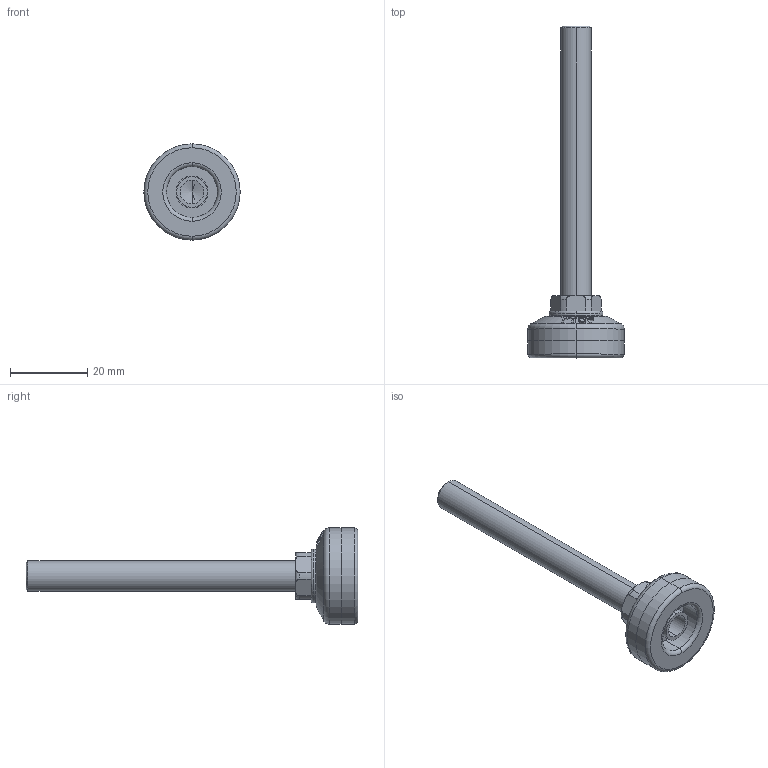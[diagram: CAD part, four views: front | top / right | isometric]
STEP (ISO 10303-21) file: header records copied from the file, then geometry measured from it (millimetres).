
FILE_DESCRIPTION (( 'STEP AP203' ), '1' );
FILE_NAME ('Q-25-870-PA.STEP', '2020-09-11T06:31:36', ( '' ), ( '' ), 'SwSTEP 2.0', 'SolidWorks 2016', '' );
FILE_SCHEMA (( 'CONFIG_CONTROL_DESIGN' ));
Length unit declared in the file: millimetre
Products named in the file (4): S倰覃誹褐_25裔赽; Q-25-870-PA; S倰覃誹褐_25菁菜; 穩諉蹟裝M8炵蹈_M8X70
Assembly tree (3 placements, depth 2):
  Q-25-870-PA
    S倰覃誹褐_25菁菜
    S倰覃誹褐_25裔赽
    穩諉蹟裝M8炵蹈_M8X70
Bounding box: 25 x 86.2 x 25 mm (x, y, z)
Volume: 7513 mm3; surface area: 6494.8 mm2
Topology: 3 solids, 3 shells, 145 faces, 347 edges, 219 vertices
Faces by surface type: bspline 48, plane 35, cylinder 32, torus 16, cone 14
Entity records: 8626 total; most frequent: CARTESIAN_POINT 5218, ORIENTED_EDGE 690, DIRECTION 507, EDGE_CURVE 345, VERTEX_POINT 219, AXIS2_PLACEMENT_3D 211, EDGE_LOOP 162, B_SPLINE_CURVE_WITH_KNOTS 148
